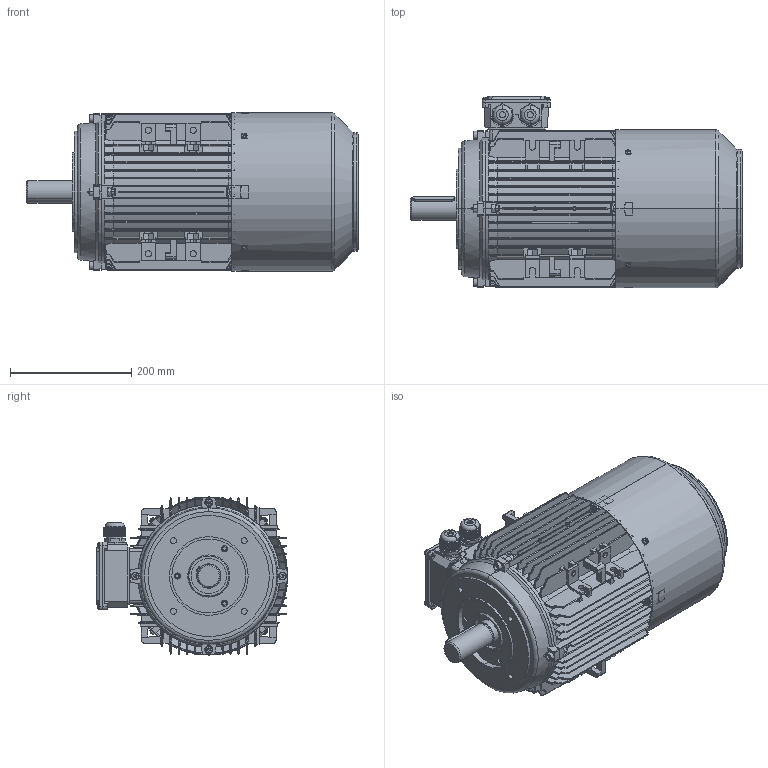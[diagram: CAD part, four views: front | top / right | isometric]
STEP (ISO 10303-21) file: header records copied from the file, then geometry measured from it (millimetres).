
FILE_DESCRIPTION (( 'STEP AP203' ), '1' );
FILE_NAME ('TB132S B14（风罩不带手柄孔）.STEP', '2021-10-26T02:10:23', ( '' ), ( '' ), 'SwSTEP 2.0', 'SolidWorks 2014', '' );
FILE_SCHEMA (( 'CONFIG_CONTROL_DESIGN' ));
Length unit declared in the file: millimetre
Products named in the file (14): TA132B14楊擘1; 112-132堤盄蹟杶; TB132瑞欶(祥湍忒梟謂); Hexagon socket head cap screws GB_GB_FASTENER_SCREWS_HSHCS M8X35-N; TB132S B14（风罩不带手柄孔）; T132S儂褲; MS132諉盄碟釱; TB132綴裔; 112怢宒瑞珔; Hexagon nuts grade C GB_GB_FASTENER_NUT_SNC1 M8-N; TB132S蛌粣; MS132諉盄碟裔; Cross recessed thread forming screws GB_GB_CROSS_SCREWS_TYPE138 M5X12-N; Plain parallel keys_GB_CONNECTING_PIECE_KEYS_CSK 10X70
Assembly tree (35 placements, depth 2):
  TB132S B14（风罩不带手柄孔）
    T132S儂褲
    TB132S蛌粣
    112-132堤盄蹟杶  x2
    TB132綴裔
    Cross recessed thread forming screws GB_GB_CROSS_SCREWS_TYPE138 M5X12-N  x8
    Hexagon socket head cap screws GB_GB_FASTENER_SCREWS_HSHCS M8X35-N  x8
    Hexagon nuts grade C GB_GB_FASTENER_NUT_SNC1 M8-N  x8
    TA132B14楊擘1
    MS132諉盄碟釱
    MS132諉盄碟裔
    TB132瑞欶(祥湍忒梟謂)
    112怢宒瑞珔
    Plain parallel keys_GB_CONNECTING_PIECE_KEYS_CSK 10X70
Bounding box: 548 x 316.55 x 261.1 mm (x, y, z)
Volume: 3569958 mm3; surface area: 1788752.1 mm2
Topology: 35 solids, 35 shells, 5260 faces, 14369 edges, 9114 vertices
Faces by surface type: plane 2801, cylinder 1219, bspline 687, cone 344, torus 193, sphere 16
Entity records: 174838 total; most frequent: CARTESIAN_POINT 64035, ORIENTED_EDGE 24882, DIRECTION 19585, EDGE_CURVE 12441, VERTEX_POINT 7979, LINE 6835, VECTOR 6835, AXIS2_PLACEMENT_3D 6375
